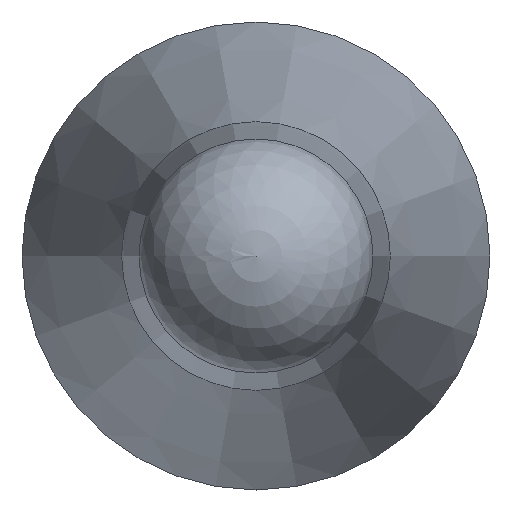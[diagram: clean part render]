
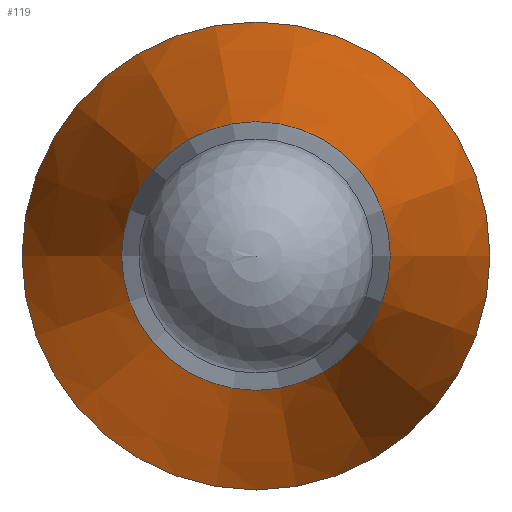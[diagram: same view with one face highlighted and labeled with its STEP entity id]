
A CAD part, left-side view. The second image highlights one B-rep face of the part: STEP entity #119.
In plain terms, the highlighted conical face has half-angle 12 degrees and reference radius 4 mm.
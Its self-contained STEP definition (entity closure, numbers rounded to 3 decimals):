
#97=CONICAL_SURFACE('',#194,4.,12.);
#106=FACE_BOUND('',#134,.T.);
#107=FACE_BOUND('',#135,.T.);
#119=ADVANCED_FACE('',(#106,#107),#97,.T.);
#134=EDGE_LOOP('',(#150));
#135=EDGE_LOOP('',(#151));
#150=ORIENTED_EDGE('',*,*,#172,.F.);
#151=ORIENTED_EDGE('',*,*,#173,.T.);
#164=VERTEX_POINT('',#249);
#165=VERTEX_POINT('',#252);
#172=EDGE_CURVE('',#164,#164,#180,.T.);
#173=EDGE_CURVE('',#165,#165,#181,.T.);
#180=CIRCLE('',#191,2.296);
#181=CIRCLE('',#193,4.);
#191=AXIS2_PLACEMENT_3D('',#248,#215,#216);
#193=AXIS2_PLACEMENT_3D('',#251,#219,#220);
#194=AXIS2_PLACEMENT_3D('',#253,#221,#222);
#215=DIRECTION('',(-1.,0.,0.));
#216=DIRECTION('',(0.,-1.,0.));
#219=DIRECTION('',(-1.,0.,0.));
#220=DIRECTION('',(0.,-1.,0.));
#221=DIRECTION('',(1.,0.,0.));
#222=DIRECTION('',(0.,1.,0.));
#248=CARTESIAN_POINT('',(7923.912,6103.288,0.));
#249=CARTESIAN_POINT('',(7923.912,6100.993,0.));
#251=CARTESIAN_POINT('',(7931.93,6103.288,0.));
#252=CARTESIAN_POINT('',(7931.93,6099.288,0.));
#253=CARTESIAN_POINT('',(7931.93,6103.288,0.));
